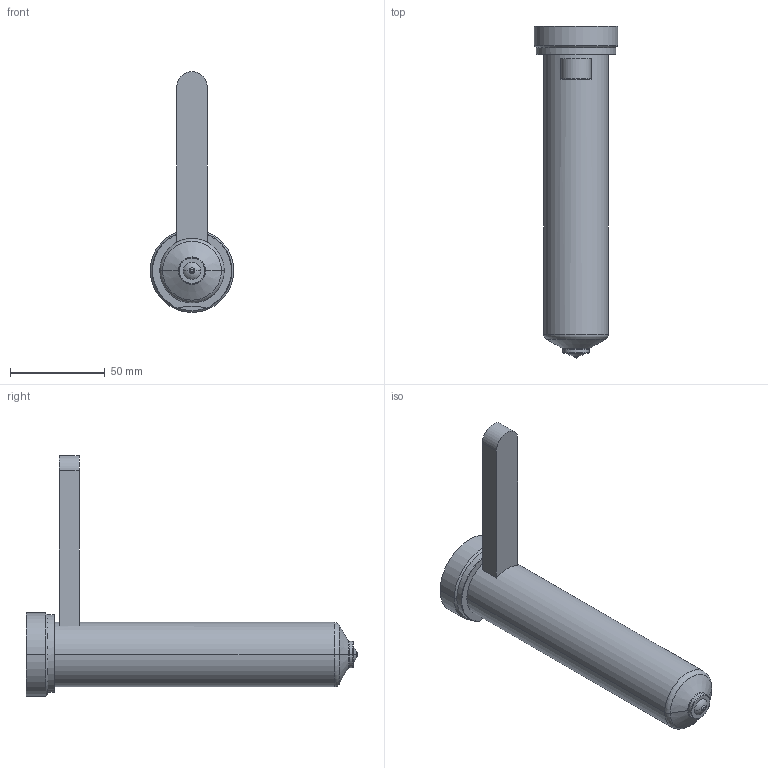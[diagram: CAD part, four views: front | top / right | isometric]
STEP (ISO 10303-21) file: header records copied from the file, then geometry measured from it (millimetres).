
FILE_DESCRIPTION((''),'2;1');
FILE_NAME('EO10_PG-BL_WR_160_COT','2024-02-19T11:11:02',('sundharh'),(''),'CREO PARAMETRIC BY PTC INC, 2023154','CREO PARAMETRIC BY PTC INC, 2023154','');
FILE_SCHEMA(('CONFIG_CONTROL_DESIGN'));
Length unit declared in the file: millimetre
Products named in the file (1): EO10_PG-BL_WR_160_COT
Bounding box: 44 x 175 x 127 mm (x, y, z)
Volume: 175456.1 mm3; surface area: 25726 mm2
Topology: 1 solids, 1 shells, 40 faces, 85 edges, 50 vertices
Faces by surface type: cylinder 13, plane 10, torus 9, cone 6, sphere 2
Entity records: 1193 total; most frequent: CARTESIAN_POINT 263, DIRECTION 209, ORIENTED_EDGE 170, AXIS2_PLACEMENT_3D 90, EDGE_CURVE 85, VERTEX_POINT 50, CIRCLE 50, EDGE_LOOP 43
